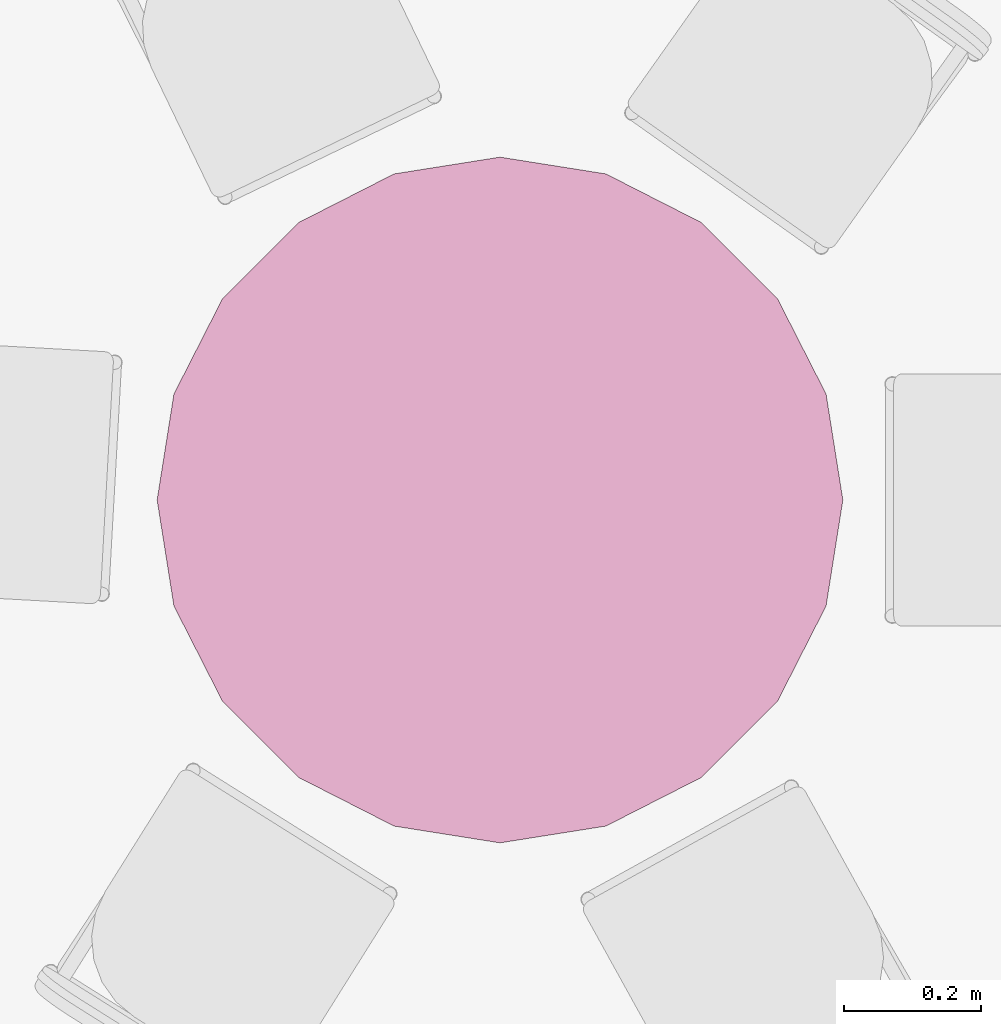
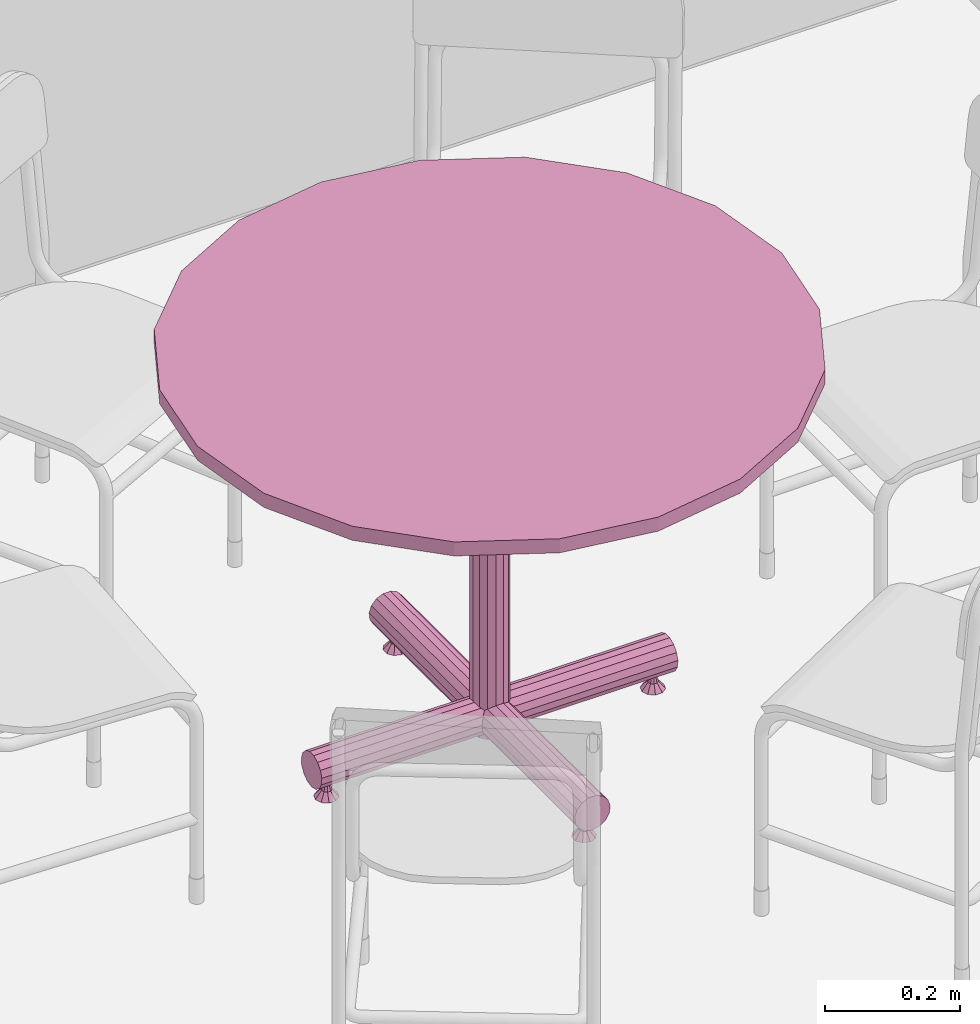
# One storey, part 276 of 301: 1 furnishing.
"""IFC2X3 building model written with IfcOpenShell, lengths in millimetres."""

from ifc_helpers import new_model, entity, si_unit, converted_unit, derived_unit, money_unit, direction, frame, origin_with_axes, place, context, subcontext, project, spatial, open_shell, faceted_brep, surface_model, source, transform, mapped, type_object, element, save


model = new_model("IFC2X3")

# Units and contexts
model_context = context("Model", 3, precision=0.01, world=origin_with_axes(), true_north=direction((0.0, 1.0)))
body_context = subcontext(model_context, "Body", "Model", "MODEL_VIEW")
ifc_project = project(units=[si_unit("LENGTHUNIT", "METRE", prefix="MILLI"), si_unit("AREAUNIT", "SQUARE_METRE"), si_unit("VOLUMEUNIT", "CUBIC_METRE"), converted_unit("PLANEANGLEUNIT", "DEGREE", entity("IfcPlaneAngleMeasure", 0.0174532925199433), si_unit("PLANEANGLEUNIT", "RADIAN"), dimensions=[0, 0, 0, 0, 0, 0, 0]), money_unit("EUR"), converted_unit("TIMEUNIT", "Year", entity("IfcTimeMeasure", 31557600.0), si_unit("TIMEUNIT", "SECOND"), dimensions=[0, 0, 1, 0, 0, 0, 0]), si_unit("MASSUNIT", "GRAM", prefix="KILO"), si_unit("THERMODYNAMICTEMPERATUREUNIT", "DEGREE_CELSIUS"), si_unit("LUMINOUSINTENSITYUNIT", "LUMEN"), si_unit("ENERGYUNIT", "JOULE", prefix="MEGA"), derived_unit("THERMALCONDUCTANCEUNIT", [(si_unit("POWERUNIT", "WATT"), 1), (si_unit("LENGTHUNIT", "METRE"), -1), (si_unit("THERMODYNAMICTEMPERATUREUNIT", "KELVIN"), -1)]), derived_unit("SPECIFICHEATCAPACITYUNIT", [(si_unit("ENERGYUNIT", "JOULE"), 1), (si_unit("MASSUNIT", "GRAM", prefix="KILO"), -1), (si_unit("THERMODYNAMICTEMPERATUREUNIT", "KELVIN"), -1)]), derived_unit("MASSDENSITYUNIT", [(si_unit("MASSUNIT", "GRAM", prefix="KILO"), 1), (si_unit("VOLUMEUNIT", "CUBIC_METRE"), -1)])], contexts=[model_context])

# Site, building, storey
site_placement = place(None, frame((0.0, 0.0, 8650.0), z_axis=(0.0, 0.0, 1.0), x_axis=(1.0, 0.0, 0.0)))
site = spatial("IfcSite", under=ifc_project, at=site_placement, Name="43301:001:0844", CompositionType="ELEMENT")
building_placement = place(site_placement, origin_with_axes())
building = spatial("IfcBuilding", under=site, at=building_placement, Name="Kuressaare Ametikooli tuulikute mehaanikute õppekorpus", CompositionType="ELEMENT")
storey_placement = place(building_placement, origin_with_axes())
storey = spatial("IfcBuildingStorey", under=building, at=storey_placement, Name="1.korrus", CompositionType="ELEMENT", Elevation=0.0)

# Furnishing
furniture_type = type_object("IfcFurnitureType", Name="Round Table 02 27", AssemblyPlace="NOTDEFINED")
shared_shape = source(origin_with_axes(), body_context, "Body", "SurfaceModel", [
    faceted_brep([(294.8117737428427, -11.19730905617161, 0.0), (298.45, 0.0, 0.0), (287.8666666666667, 0.0, 12.7), (286.2496772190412, -4.976581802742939, 12.7), (285.2867737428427, -18.11762663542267, 0.0), (273.5132262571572, -18.11762663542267, 0.0), (263.9882262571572, -11.19730905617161, 0.0), (260.35, 0.0, 0.0), (263.9882262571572, 11.19730905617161, 0.0), (273.5132262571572, 18.11762663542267, 0.0), (285.2867737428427, 18.11762663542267, 0.0), (294.8117737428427, 11.19730905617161, 0.0), (286.2496772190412, 4.976581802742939, 12.7), (282.0163438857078, 8.052278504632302, 12.7), (276.7836561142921, 8.052278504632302, 12.7), (272.5503227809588, 4.976581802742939, 12.7), (270.9333333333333, 0.0, 12.7), (272.5503227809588, -4.976581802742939, 12.7), (276.7836561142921, -8.052278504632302, 12.7), (282.0163438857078, -8.052278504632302, 12.7)], [[[0, 1, 2, 3]], [[0, 4, 5, 6, 7, 8, 9, 10, 11, 1]], [[1, 11, 12, 2]], [[3, 2, 12, 13, 14, 15, 16, 17, 18, 19]], [[4, 0, 3, 19]], [[5, 4, 19, 18]], [[6, 5, 18, 17]], [[7, 6, 17, 16]], [[8, 7, 16, 15]], [[9, 8, 15, 14]], [[10, 9, 14, 13]], [[11, 10, 13, 12]]]),
    faceted_brep([(286.2496772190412, -4.976581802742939, 12.7), (287.8666666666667, 0.0, 12.7), (284.48, 0.0, 25.4), (283.5098063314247, -2.985949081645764, 25.4), (282.0163438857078, -8.052278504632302, 12.7), (276.7836561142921, -8.052278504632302, 12.7), (272.5503227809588, -4.976581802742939, 12.7), (270.9333333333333, 0.0, 12.7), (272.5503227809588, 4.976581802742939, 12.7), (276.7836561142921, 8.052278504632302, 12.7), (282.0163438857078, 8.052278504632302, 12.7), (286.2496772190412, 4.976581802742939, 12.7), (283.5098063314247, 2.985949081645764, 25.4), (280.9698063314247, 4.831367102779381, 25.4), (277.8301936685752, 4.831367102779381, 25.4), (275.2901936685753, 2.985949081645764, 25.4), (274.32, 0.0, 25.4), (275.2901936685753, -2.985949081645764, 25.4), (277.8301936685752, -4.831367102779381, 25.4), (280.9698063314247, -4.831367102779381, 25.4)], [[[0, 1, 2, 3]], [[0, 4, 5, 6, 7, 8, 9, 10, 11, 1]], [[1, 11, 12, 2]], [[3, 2, 12, 13, 14, 15, 16, 17, 18, 19]], [[4, 0, 3, 19]], [[5, 4, 19, 18]], [[6, 5, 18, 17]], [[7, 6, 17, 16]], [[8, 7, 16, 15]], [[9, 8, 15, 14]], [[10, 9, 14, 13]], [[11, 10, 13, 12]]]),
    faceted_brep([(11.19730905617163, 294.8117737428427, 0.0), (0.0, 298.45, 0.0), (0.0, 287.8666666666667, 12.7), (4.976581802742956, 286.2496772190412, 12.7), (18.11762663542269, 285.2867737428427, 0.0), (18.11762663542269, 273.5132262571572, 0.0), (11.19730905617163, 263.9882262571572, 0.0), (0.0, 260.35, 0.0), (-11.1973090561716, 263.9882262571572, 0.0), (-18.11762663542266, 273.5132262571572, 0.0), (-18.11762663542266, 285.2867737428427, 0.0), (-11.19730905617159, 294.8117737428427, 0.0), (-4.976581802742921, 286.2496772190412, 12.7), (-8.052278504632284, 282.0163438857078, 12.7), (-8.052278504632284, 276.7836561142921, 12.7), (-4.976581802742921, 272.5503227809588, 12.7), (0.0, 270.9333333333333, 12.7), (4.976581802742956, 272.5503227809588, 12.7), (8.052278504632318, 276.7836561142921, 12.7), (8.052278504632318, 282.0163438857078, 12.7)], [[[0, 1, 2, 3]], [[0, 4, 5, 6, 7, 8, 9, 10, 11, 1]], [[1, 11, 12, 2]], [[3, 2, 12, 13, 14, 15, 16, 17, 18, 19]], [[4, 0, 3, 19]], [[5, 4, 19, 18]], [[6, 5, 18, 17]], [[7, 6, 17, 16]], [[8, 7, 16, 15]], [[9, 8, 15, 14]], [[10, 9, 14, 13]], [[11, 10, 13, 12]]]),
    faceted_brep([(4.976581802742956, 286.2496772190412, 12.7), (0.0, 287.8666666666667, 12.7), (0.0, 284.48, 25.4), (2.985949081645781, 283.5098063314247, 25.4), (8.052278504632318, 282.0163438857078, 12.7), (8.052278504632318, 276.7836561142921, 12.7), (4.976581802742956, 272.5503227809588, 12.7), (0.0, 270.9333333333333, 12.7), (-4.976581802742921, 272.5503227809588, 12.7), (-8.052278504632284, 276.7836561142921, 12.7), (-8.052278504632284, 282.0163438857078, 12.7), (-4.976581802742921, 286.2496772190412, 12.7), (-2.985949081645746, 283.5098063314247, 25.4), (-4.831367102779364, 280.9698063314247, 25.4), (-4.831367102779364, 277.8301936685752, 25.4), (-2.985949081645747, 275.2901936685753, 25.4), (0.0, 274.32, 25.4), (2.98594908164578, 275.2901936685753, 25.4), (4.831367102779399, 277.8301936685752, 25.4), (4.831367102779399, 280.9698063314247, 25.4)], [[[0, 1, 2, 3]], [[0, 4, 5, 6, 7, 8, 9, 10, 11, 1]], [[1, 11, 12, 2]], [[3, 2, 12, 13, 14, 15, 16, 17, 18, 19]], [[4, 0, 3, 19]], [[5, 4, 19, 18]], [[6, 5, 18, 17]], [[7, 6, 17, 16]], [[8, 7, 16, 15]], [[9, 8, 15, 14]], [[10, 9, 14, 13]], [[11, 10, 13, 12]]]),
    faceted_brep([(-294.8117737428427, 11.19730905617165, 0.0), (-298.45, 0.0, 0.0), (-287.8666666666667, 0.0, 12.7), (-286.2496772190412, 4.976581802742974, 12.7), (-285.2867737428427, 18.11762663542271, 0.0), (-273.5132262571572, 18.11762663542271, 0.0), (-263.9882262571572, 11.19730905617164, 0.0), (-260.35, 0.0, 0.0), (-263.9882262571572, -11.19730905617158, 0.0), (-273.5132262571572, -18.11762663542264, 0.0), (-285.2867737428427, -18.11762663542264, 0.0), (-294.8117737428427, -11.19730905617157, 0.0), (-286.2496772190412, -4.976581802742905, 12.7), (-282.0163438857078, -8.052278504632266, 12.7), (-276.7836561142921, -8.052278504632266, 12.7), (-272.5503227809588, -4.976581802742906, 12.7), (-270.9333333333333, 0.0, 12.7), (-272.5503227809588, 4.976581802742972, 12.7), (-276.7836561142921, 8.052278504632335, 12.7), (-282.0163438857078, 8.052278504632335, 12.7)], [[[0, 1, 2, 3]], [[0, 4, 5, 6, 7, 8, 9, 10, 11, 1]], [[1, 11, 12, 2]], [[3, 2, 12, 13, 14, 15, 16, 17, 18, 19]], [[4, 0, 3, 19]], [[5, 4, 19, 18]], [[6, 5, 18, 17]], [[7, 6, 17, 16]], [[8, 7, 16, 15]], [[9, 8, 15, 14]], [[10, 9, 14, 13]], [[11, 10, 13, 12]]]),
    faceted_brep([(-286.2496772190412, 4.976581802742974, 12.7), (-287.8666666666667, 0.0, 12.7), (-284.48, 0.0, 25.4), (-283.5098063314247, 2.985949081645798, 25.4), (-282.0163438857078, 8.052278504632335, 12.7), (-276.7836561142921, 8.052278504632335, 12.7), (-272.5503227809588, 4.976581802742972, 12.7), (-270.9333333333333, 0.0, 12.7), (-272.5503227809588, -4.976581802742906, 12.7), (-276.7836561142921, -8.052278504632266, 12.7), (-282.0163438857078, -8.052278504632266, 12.7), (-286.2496772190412, -4.976581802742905, 12.7), (-283.5098063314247, -2.985949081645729, 25.4), (-280.9698063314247, -4.831367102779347, 25.4), (-277.8301936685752, -4.831367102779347, 25.4), (-275.2901936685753, -2.98594908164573, 25.4), (-274.32, 0.0, 25.4), (-275.2901936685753, 2.985949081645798, 25.4), (-277.8301936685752, 4.831367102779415, 25.4), (-280.9698063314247, 4.831367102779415, 25.4)], [[[0, 1, 2, 3]], [[0, 4, 5, 6, 7, 8, 9, 10, 11, 1]], [[1, 11, 12, 2]], [[3, 2, 12, 13, 14, 15, 16, 17, 18, 19]], [[4, 0, 3, 19]], [[5, 4, 19, 18]], [[6, 5, 18, 17]], [[7, 6, 17, 16]], [[8, 7, 16, 15]], [[9, 8, 15, 14]], [[10, 9, 14, 13]], [[11, 10, 13, 12]]]),
    faceted_brep([(-11.19730905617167, -294.8117737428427, 0.0), (0.0, -298.45, 0.0), (0.0, -287.8666666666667, 12.7), (-4.976581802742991, -286.2496772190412, 12.7), (-18.11762663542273, -285.2867737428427, 0.0), (-18.11762663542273, -273.5132262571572, 0.0), (-11.19730905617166, -263.9882262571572, 0.0), (0.0, -260.35, 0.0), (11.19730905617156, -263.9882262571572, 0.0), (18.11762663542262, -273.5132262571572, 0.0), (18.11762663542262, -285.2867737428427, 0.0), (11.19730905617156, -294.8117737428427, 0.0), (4.976581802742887, -286.2496772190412, 12.7), (8.052278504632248, -282.0163438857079, 12.7), (8.052278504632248, -276.7836561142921, 12.7), (4.976581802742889, -272.5503227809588, 12.7), (0.0, -270.9333333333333, 12.7), (-4.976581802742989, -272.5503227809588, 12.7), (-8.052278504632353, -276.7836561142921, 12.7), (-8.052278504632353, -282.0163438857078, 12.7)], [[[0, 1, 2, 3]], [[0, 4, 5, 6, 7, 8, 9, 10, 11, 1]], [[1, 11, 12, 2]], [[3, 2, 12, 13, 14, 15, 16, 17, 18, 19]], [[4, 0, 3, 19]], [[5, 4, 19, 18]], [[6, 5, 18, 17]], [[7, 6, 17, 16]], [[8, 7, 16, 15]], [[9, 8, 15, 14]], [[10, 9, 14, 13]], [[11, 10, 13, 12]]]),
    faceted_brep([(-4.976581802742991, -286.2496772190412, 12.7), (0.0, -287.8666666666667, 12.7), (0.0, -284.48, 25.4), (-2.985949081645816, -283.5098063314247, 25.4), (-8.052278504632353, -282.0163438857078, 12.7), (-8.052278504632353, -276.7836561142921, 12.7), (-4.976581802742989, -272.5503227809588, 12.7), (0.0, -270.9333333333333, 12.7), (4.976581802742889, -272.5503227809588, 12.7), (8.052278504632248, -276.7836561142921, 12.7), (8.052278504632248, -282.0163438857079, 12.7), (4.976581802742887, -286.2496772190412, 12.7), (2.985949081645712, -283.5098063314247, 25.4), (4.83136710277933, -280.9698063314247, 25.4), (4.83136710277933, -277.8301936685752, 25.4), (2.985949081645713, -275.2901936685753, 25.4), (0.0, -274.32, 25.4), (-2.985949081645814, -275.2901936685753, 25.4), (-4.831367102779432, -277.8301936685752, 25.4), (-4.831367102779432, -280.9698063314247, 25.4)], [[[0, 1, 2, 3]], [[0, 4, 5, 6, 7, 8, 9, 10, 11, 1]], [[1, 11, 12, 2]], [[3, 2, 12, 13, 14, 15, 16, 17, 18, 19]], [[4, 0, 3, 19]], [[5, 4, 19, 18]], [[6, 5, 18, 17]], [[7, 6, 17, 16]], [[8, 7, 16, 15]], [[9, 8, 15, 14]], [[10, 9, 14, 13]], [[11, 10, 13, 12]]]),
    surface_model("IfcShellBasedSurfaceModel", [(27.84486554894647, -12.3973328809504, 28.03513445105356), (30.48, 0.0, 25.40000000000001), (304.8, 0.0, 25.40000000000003), (304.8, -12.3973328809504, 28.03513445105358), (27.84486554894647, 12.39733288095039, 28.03513445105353), (304.8, 12.39733288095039, 28.03513445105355), (304.8, 22.65105428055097, 35.48489911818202), (304.8, 28.98820261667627, 46.46116201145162), (304.8, 30.31302737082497, 59.06602756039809), (304.8, 26.39645430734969, 71.12), (304.8, 17.91569448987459, 80.5388379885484), (304.8, 6.337148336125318, 85.6939388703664), (304.8, -6.337148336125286, 85.6939388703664), (304.8, -17.91569448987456, 80.53883798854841), (304.8, -26.39645430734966, 71.12000000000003), (304.8, -30.31302737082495, 59.06602756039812), (304.8, -28.98820261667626, 46.46116201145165), (304.8, -22.65105428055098, 35.48489911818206), (21.34442362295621, -21.3444236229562, 34.53557637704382), (22.65105428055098, -22.65105428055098, 35.48489911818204), (21.34442362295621, 21.34442362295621, 34.5355763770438), (22.65105428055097, 22.65105428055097, 35.48489911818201), (28.98820261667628, 28.98820261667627, 46.4611620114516), (30.31302737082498, 30.31302737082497, 59.06602756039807), (26.39645430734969, 26.39645430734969, 71.11999999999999), (21.1105696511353, 21.1105696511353, 76.99056965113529), (24.65883798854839, 17.91569448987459, 80.53883798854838), (29.81393887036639, 6.337148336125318, 85.69393887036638), (29.8139388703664, -6.337148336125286, 85.69393887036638), (24.65883798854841, -17.91569448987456, 80.53883798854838), (21.1105696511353, -21.1105696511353, 76.99056965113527), (26.39645430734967, -26.39645430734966, 71.12), (30.31302737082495, -30.31302737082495, 59.0660275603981), (28.98820261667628, -28.98820261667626, 46.46116201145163)], [open_shell([[[0, 1, 2, 3]], [[1, 4, 5, 2]], [[3, 2, 5, 6, 7, 8, 9, 10, 11, 12, 13, 14, 15, 16, 17]], [[18, 0, 3, 17, 19]], [[4, 20, 21, 6, 5]], [[22, 7, 6, 21]], [[23, 8, 7, 22]], [[24, 9, 8, 23]], [[25, 26, 10, 9, 24]], [[26, 27, 11, 10]], [[27, 28, 12, 11]], [[28, 29, 13, 12]], [[29, 30, 31, 14, 13]], [[32, 15, 14, 31]], [[33, 16, 15, 32]], [[19, 17, 16, 33]]])]),
    surface_model("IfcShellBasedSurfaceModel", [(12.3973328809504, 27.84486554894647, 28.03513445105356), (0.0, 30.48, 25.40000000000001), (0.0, 304.8, 25.40000000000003), (12.39733288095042, 304.8, 28.03513445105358), (-12.39733288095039, 27.84486554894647, 28.03513445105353), (-12.39733288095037, 304.8, 28.03513445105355), (-22.65105428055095, 304.8, 35.48489911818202), (-28.98820261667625, 304.8, 46.46116201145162), (-30.31302737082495, 304.8, 59.06602756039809), (-26.39645430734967, 304.8, 71.12), (-17.91569448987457, 304.8, 80.5388379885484), (-6.337148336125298, 304.8, 85.6939388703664), (6.337148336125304, 304.8, 85.6939388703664), (17.91569448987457, 304.8, 80.53883798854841), (26.39645430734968, 304.8, 71.12000000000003), (30.31302737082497, 304.8, 59.06602756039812), (28.98820261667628, 304.8, 46.46116201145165), (22.65105428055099, 304.8, 35.48489911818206), (21.3444236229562, 21.34442362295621, 34.53557637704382), (22.65105428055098, 22.65105428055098, 35.48489911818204), (-21.34442362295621, 21.34442362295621, 34.5355763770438), (-22.65105428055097, 22.65105428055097, 35.48489911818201), (-28.98820261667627, 28.98820261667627, 46.4611620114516), (-30.31302737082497, 30.31302737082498, 59.06602756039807), (-26.39645430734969, 26.39645430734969, 71.11999999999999), (-21.1105696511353, 21.1105696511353, 76.99056965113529), (-17.91569448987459, 24.65883798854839, 80.53883798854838), (-6.337148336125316, 29.81393887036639, 85.69393887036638), (6.337148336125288, 29.8139388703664, 85.69393887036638), (17.91569448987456, 24.65883798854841, 80.53883798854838), (21.1105696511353, 21.1105696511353, 76.99056965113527), (26.39645430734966, 26.39645430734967, 71.12), (30.31302737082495, 30.31302737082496, 59.0660275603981), (28.98820261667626, 28.98820261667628, 46.46116201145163)], [open_shell([[[0, 1, 2, 3]], [[1, 4, 5, 2]], [[3, 2, 5, 6, 7, 8, 9, 10, 11, 12, 13, 14, 15, 16, 17]], [[18, 0, 3, 17, 19]], [[4, 20, 21, 6, 5]], [[22, 7, 6, 21]], [[23, 8, 7, 22]], [[24, 9, 8, 23]], [[25, 26, 10, 9, 24]], [[26, 27, 11, 10]], [[27, 28, 12, 11]], [[28, 29, 13, 12]], [[29, 30, 31, 14, 13]], [[32, 15, 14, 31]], [[33, 16, 15, 32]], [[19, 17, 16, 33]]])]),
    surface_model("IfcShellBasedSurfaceModel", [(-27.84486554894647, 12.39733288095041, 28.03513445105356), (-30.48, 0.0, 25.40000000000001), (-304.8, 0.0, 25.40000000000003), (-304.8, 12.39733288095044, 28.03513445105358), (-27.84486554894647, -12.39733288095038, 28.03513445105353), (-304.8, -12.39733288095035, 28.03513445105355), (-304.8, -22.65105428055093, 35.48489911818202), (-304.8, -28.98820261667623, 46.46116201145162), (-304.8, -30.31302737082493, 59.06602756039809), (-304.8, -26.39645430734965, 71.12), (-304.8, -17.91569448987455, 80.5388379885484), (-304.8, -6.337148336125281, 85.6939388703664), (-304.8, 6.337148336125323, 85.6939388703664), (-304.8, 17.9156944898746, 80.53883798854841), (-304.8, 26.3964543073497, 71.12000000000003), (-304.8, 30.31302737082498, 59.06602756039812), (-304.8, 28.9882026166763, 46.46116201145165), (-304.8, 22.65105428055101, 35.48489911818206), (-21.3444236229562, 21.34442362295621, 34.53557637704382), (-22.65105428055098, 22.65105428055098, 35.48489911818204), (-21.34442362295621, -21.3444236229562, 34.5355763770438), (-22.65105428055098, -22.65105428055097, 35.48489911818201), (-28.98820261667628, -28.98820261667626, 46.4611620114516), (-30.31302737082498, -30.31302737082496, 59.06602756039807), (-26.3964543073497, -26.39645430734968, 71.11999999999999), (-21.11056965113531, -21.11056965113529, 76.99056965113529), (-24.65883798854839, -17.91569448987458, 80.53883798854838), (-29.81393887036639, -6.337148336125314, 85.69393887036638), (-29.8139388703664, 6.337148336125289, 85.69393887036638), (-24.65883798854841, 17.91569448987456, 80.53883798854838), (-21.1105696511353, 21.1105696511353, 76.99056965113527), (-26.39645430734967, 26.39645430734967, 71.12), (-30.31302737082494, 30.31302737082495, 59.0660275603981), (-28.98820261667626, 28.98820261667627, 46.46116201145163)], [open_shell([[[0, 1, 2, 3]], [[1, 4, 5, 2]], [[3, 2, 5, 6, 7, 8, 9, 10, 11, 12, 13, 14, 15, 16, 17]], [[18, 0, 3, 17, 19]], [[4, 20, 21, 6, 5]], [[22, 7, 6, 21]], [[23, 8, 7, 22]], [[24, 9, 8, 23]], [[25, 26, 10, 9, 24]], [[26, 27, 11, 10]], [[27, 28, 12, 11]], [[28, 29, 13, 12]], [[29, 30, 31, 14, 13]], [[32, 15, 14, 31]], [[33, 16, 15, 32]], [[19, 17, 16, 33]]])]),
    surface_model("IfcShellBasedSurfaceModel", [(-12.39733288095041, -27.84486554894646, 28.03513445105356), (0.0, -30.48, 25.40000000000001), (0.0, -304.8, 25.40000000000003), (-12.39733288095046, -304.8, 28.03513445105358), (12.39733288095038, -27.84486554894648, 28.03513445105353), (12.39733288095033, -304.8, 28.03513445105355), (22.65105428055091, -304.8, 35.48489911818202), (28.98820261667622, -304.8, 46.46116201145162), (30.31302737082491, -304.8, 59.06602756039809), (26.39645430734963, -304.8, 71.12), (17.91569448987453, -304.8, 80.5388379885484), (6.337148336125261, -304.8, 85.6939388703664), (-6.337148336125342, -304.8, 85.6939388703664), (-17.91569448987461, -304.8, 80.53883798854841), (-26.39645430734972, -304.8, 71.12000000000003), (-30.313027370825, -304.8, 59.06602756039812), (-28.98820261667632, -304.8, 46.46116201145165), (-22.65105428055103, -304.8, 35.48489911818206), (-21.34442362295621, -21.3444236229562, 34.53557637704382), (-22.65105428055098, -22.65105428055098, 35.48489911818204), (21.3444236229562, -21.34442362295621, 34.5355763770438), (22.65105428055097, -22.65105428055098, 35.48489911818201), (28.98820261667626, -28.98820261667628, 46.4611620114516), (30.31302737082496, -30.31302737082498, 59.06602756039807), (26.39645430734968, -26.3964543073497, 71.11999999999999), (21.11056965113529, -21.11056965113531, 76.99056965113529), (17.91569448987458, -24.65883798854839, 80.53883798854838), (6.337148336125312, -29.81393887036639, 85.69393887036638), (-6.33714833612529, -29.8139388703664, 85.69393887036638), (-17.91569448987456, -24.65883798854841, 80.53883798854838), (-21.1105696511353, -21.1105696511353, 76.99056965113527), (-26.39645430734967, -26.39645430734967, 71.12), (-30.31302737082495, -30.31302737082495, 59.0660275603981), (-28.98820261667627, -28.98820261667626, 46.46116201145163)], [open_shell([[[0, 1, 2, 3]], [[1, 4, 5, 2]], [[3, 2, 5, 6, 7, 8, 9, 10, 11, 12, 13, 14, 15, 16, 17]], [[18, 0, 3, 17, 19]], [[4, 20, 21, 6, 5]], [[22, 7, 6, 21]], [[23, 8, 7, 22]], [[24, 9, 8, 23]], [[25, 26, 10, 9, 24]], [[26, 27, 11, 10]], [[27, 28, 12, 11]], [[28, 29, 13, 12]], [[29, 30, 31, 14, 13]], [[32, 15, 14, 31]], [[33, 16, 15, 32]], [[19, 17, 16, 33]]])]),
    faceted_brep([(27.84486554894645, -12.3973328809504, 25.4), (20.39510088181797, -22.65105428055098, 25.4), (9.418837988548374, -28.98820261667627, 25.4), (-3.186027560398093, -30.31302737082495, 25.4), (-15.24000000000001, -26.39645430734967, 25.4), (-24.65883798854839, -17.91569448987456, 25.4), (-29.81393887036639, -6.337148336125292, 25.4), (-29.81393887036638, 6.337148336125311, 25.4), (-24.65883798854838, 17.91569448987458, 25.4), (-15.23999999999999, 26.39645430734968, 25.4), (-3.186027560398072, 30.31302737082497, 25.4), (9.418837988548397, 28.98820261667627, 25.4), (20.39510088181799, 22.65105428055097, 25.4), (27.84486554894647, 12.39733288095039, 25.4), (30.48, 0.0, 25.4), (27.84486554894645, -12.3973328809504, 684.6), (20.39510088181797, -22.65105428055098, 684.6), (9.418837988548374, -28.98820261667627, 684.6), (-3.186027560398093, -30.31302737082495, 684.6), (-15.24000000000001, -26.39645430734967, 684.6), (-24.65883798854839, -17.91569448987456, 684.6), (-29.81393887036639, -6.337148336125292, 684.6), (-29.81393887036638, 6.337148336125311, 684.6), (-24.65883798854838, 17.91569448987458, 684.6), (-15.23999999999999, 26.39645430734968, 684.6), (-3.186027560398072, 30.31302737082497, 684.6), (9.418837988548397, 28.98820261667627, 684.6), (20.39510088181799, 22.65105428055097, 684.6), (27.84486554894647, 12.39733288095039, 684.6), (30.48, 0.0, 684.6)], [[[0, 1, 2, 3, 4, 5, 6, 7, 8, 9, 10, 11, 12, 13, 14]], [[1, 0, 15, 16]], [[2, 1, 16, 17]], [[3, 2, 17, 18]], [[4, 3, 18, 19]], [[5, 4, 19, 20]], [[6, 5, 20, 21]], [[7, 6, 21, 22]], [[8, 7, 22, 23]], [[9, 8, 23, 24]], [[10, 9, 24, 25]], [[11, 10, 25, 26]], [[12, 11, 26, 27]], [[13, 12, 27, 28]], [[14, 13, 28, 29]], [[0, 14, 29, 15]], [[15, 29, 28, 27, 26, 25, 24, 23, 22, 21, 20, 19, 18, 17, 16]]]),
    faceted_brep([(475.5282581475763, -154.5084971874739, 684.6), (404.5084971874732, -293.8926261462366, 684.6), (293.8926261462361, -404.5084971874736, 684.6), (154.5084971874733, -475.5282581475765, 684.6), (0.0, -499.9999999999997, 684.6), (-154.5084971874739, -475.5282581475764, 684.6), (-293.8926261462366, -404.5084971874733, 684.6), (-404.5084971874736, -293.8926261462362, 684.6), (-475.5282581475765, -154.5084971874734, 684.6), (-499.9999999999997, 0.0, 684.6), (-475.5282581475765, 154.5084971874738, 684.6), (-404.5084971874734, 293.8926261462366, 684.6), (-293.8926261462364, 404.5084971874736, 684.6), (-154.5084971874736, 475.5282581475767, 684.6), (0.0, 499.9999999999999, 684.6), (154.5084971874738, 475.5282581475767, 684.6), (293.8926261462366, 404.5084971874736, 684.6), (404.5084971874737, 293.8926261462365, 684.6), (475.5282581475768, 154.5084971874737, 684.6), (500.0, 0.0, 684.6), (475.5282581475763, -154.5084971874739, 710.0), (404.5084971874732, -293.8926261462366, 710.0), (293.8926261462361, -404.5084971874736, 710.0), (154.5084971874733, -475.5282581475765, 710.0), (0.0, -499.9999999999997, 710.0), (-154.5084971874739, -475.5282581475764, 710.0), (-293.8926261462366, -404.5084971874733, 710.0), (-404.5084971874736, -293.8926261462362, 710.0), (-475.5282581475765, -154.5084971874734, 710.0), (-499.9999999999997, 0.0, 710.0), (-475.5282581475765, 154.5084971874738, 710.0), (-404.5084971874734, 293.8926261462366, 710.0), (-293.8926261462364, 404.5084971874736, 710.0), (-154.5084971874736, 475.5282581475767, 710.0), (0.0, 499.9999999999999, 710.0), (154.5084971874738, 475.5282581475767, 710.0), (293.8926261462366, 404.5084971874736, 710.0), (404.5084971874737, 293.8926261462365, 710.0), (475.5282581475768, 154.5084971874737, 710.0), (500.0, 0.0, 710.0)], [[[0, 1, 2, 3, 4, 5, 6, 7, 8, 9, 10, 11, 12, 13, 14, 15, 16, 17, 18, 19]], [[1, 0, 20, 21]], [[2, 1, 21, 22]], [[3, 2, 22, 23]], [[4, 3, 23, 24]], [[5, 4, 24, 25]], [[6, 5, 25, 26]], [[7, 6, 26, 27]], [[8, 7, 27, 28]], [[9, 8, 28, 29]], [[10, 9, 29, 30]], [[11, 10, 30, 31]], [[12, 11, 31, 32]], [[13, 12, 32, 33]], [[14, 13, 33, 34]], [[15, 14, 34, 35]], [[16, 15, 35, 36]], [[17, 16, 36, 37]], [[18, 17, 37, 38]], [[19, 18, 38, 39]], [[0, 19, 39, 20]], [[20, 39, 38, 37, 36, 35, 34, 33, 32, 31, 30, 29, 28, 27, 26, 25, 24, 23, 22, 21]]]),
])
furnishing_placement = place(storey_placement, frame((122222.0257669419, 30564.04261543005, 0.0), z_axis=(0.0, 0.0, 1.0), x_axis=(0.0, 1.0, 0.0)))
element("IfcFurnishingElement", 1, at=furnishing_placement, inside=storey, type_object=furniture_type, Name="L1", context=body_context, shape_type="MappedRepresentation", body=[
    mapped(shared_shape, transform((0.0, 0.0, 0.0))),
])

save(model, "model.ifc")
